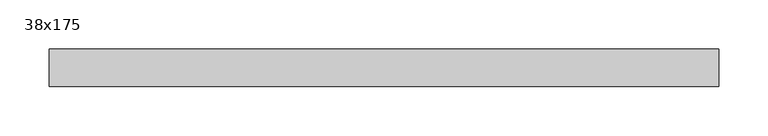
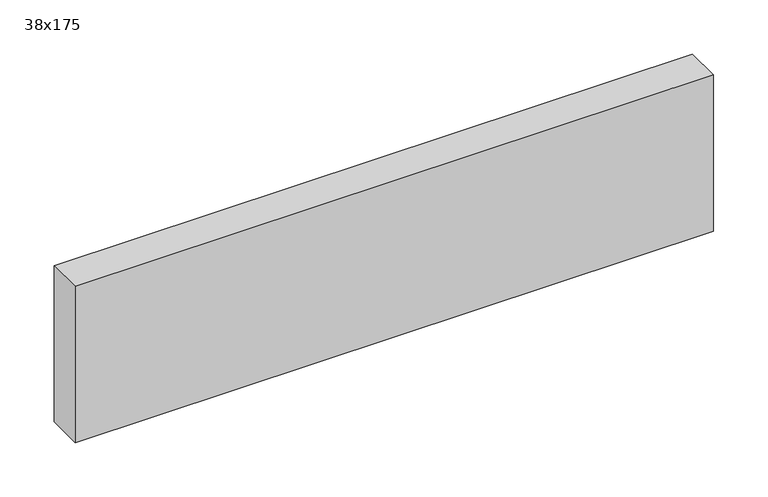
"""IFC4 building model written with IfcOpenShell, lengths in millimetres: beam geometry, Graded Timber : 38x175."""

from ifc_helpers import new_model, si_unit, frame, origin, place, context, project, spatial, polyline, outline, extrude, source, transform, mapped, element, save


def beam_38x175_4221ed1c(model_context):
    return source(origin(), model_context, "Body", "SweptSolid", [
        extrude(outline(polyline([(319.4995784, 19.0), (319.4995784, -19.0), (-357.5004246, -19.0), (-357.5004246, 19.0), (319.4995784, 19.0)])), frame((0.0, 0.0, -87.5), z_axis=(0.0, 0.0, 1.0), x_axis=(1.0, 0.0, 0.0)), (0.0, 0.0, 1.0), 175.0),
    ])


if __name__ == "__main__":
    model = new_model("IFC4")
    model_context = context("Model", 3, world=origin())
    ifc_project = project(units=[si_unit("LENGTHUNIT", "METRE", prefix="MILLI")], contexts=[model_context])
    site = spatial("IfcSite", under=ifc_project)
    building = spatial("IfcBuilding", under=site)
    placement = place(None, origin())
    beam_38x175_shape = beam_38x175_4221ed1c(model_context)
    element("IfcBeam", 1, ObjectType="Graded Timber : 38x175", at=placement, inside=building, context=model_context, shape_type="MappedRepresentation", body=[
        mapped(beam_38x175_shape, transform((0.0, 0.0, 0.0), x_axis=(1.0, 0.0, 0.0), y_axis=(0.0, 1.0, 0.0), z_axis=(0.0, 0.0, 1.0))),
    ])
    save(model, "model.ifc")
